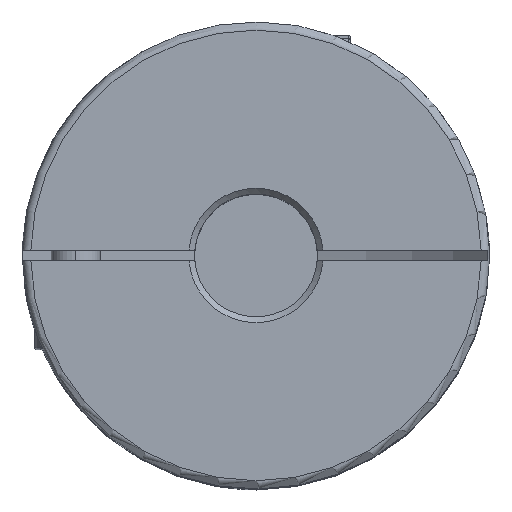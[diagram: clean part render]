
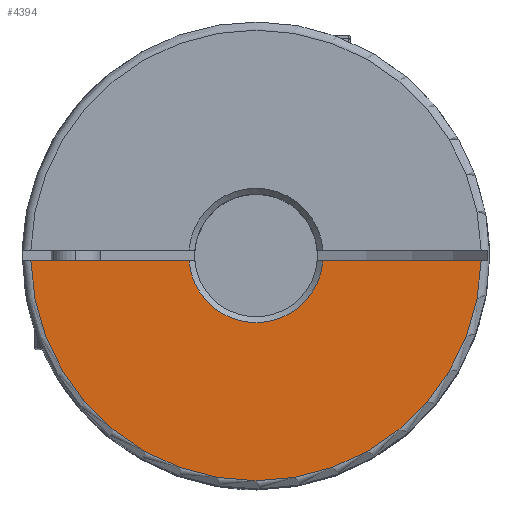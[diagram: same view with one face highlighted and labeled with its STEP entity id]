
A CAD part, top view. The second image highlights one B-rep face of the part: STEP entity #4394.
In plain terms, the highlighted planar face has unit normal (0, 0, 1).
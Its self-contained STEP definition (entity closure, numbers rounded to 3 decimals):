
#1064 = VERTEX_POINT ( 'NONE', #5652 ) ;
#1393 = EDGE_CURVE ( 'NONE', #1064, #7564, #5310, .T. ) ;
#1398 = EDGE_CURVE ( 'NONE', #7649, #7548, #5324, .T. ) ;
#1399 = EDGE_CURVE ( 'NONE', #7649, #7564, #5319, .T. ) ;
#1400 = EDGE_CURVE ( 'NONE', #1064, #7548, #5320, .T. ) ;
#1639 = AXIS2_PLACEMENT_3D ( 'NONE', #3376, #3379, #3377 ) ;
#1640 = AXIS2_PLACEMENT_3D ( 'NONE', #3437, #3434, #3450 ) ;
#2000 = AXIS2_PLACEMENT_3D ( 'NONE', #6309, #6301, #6299 ) ;
#2563 = FACE_OUTER_BOUND ( 'NONE', #3873, .T. ) ;
#3063 = ORIENTED_EDGE ( 'NONE', *, *, #1398, .F. ) ;
#3083 = ORIENTED_EDGE ( 'NONE', *, *, #1393, .F. ) ;
#3163 = ORIENTED_EDGE ( 'NONE', *, *, #1399, .T. ) ;
#3185 = ORIENTED_EDGE ( 'NONE', *, *, #1400, .T. ) ;
#3359 = DIRECTION ( 'NONE',  ( 1., 0., 0. ) ) ;
#3360 = DIRECTION ( 'NONE',  ( 1., 0., 0. ) ) ;
#3376 = CARTESIAN_POINT ( 'NONE',  ( 0., 0., 38.1 ) ) ;
#3377 = DIRECTION ( 'NONE',  ( 0., 1., 0. ) ) ;
#3379 = DIRECTION ( 'NONE',  ( 0., 0., -1. ) ) ;
#3380 = CARTESIAN_POINT ( 'NONE',  ( -28.5, -0.65, 38.1 ) ) ;
#3434 = DIRECTION ( 'NONE',  ( 0., 0., 1. ) ) ;
#3437 = CARTESIAN_POINT ( 'NONE',  ( 0., 0., 38.1 ) ) ;
#3445 = CARTESIAN_POINT ( 'NONE',  ( -28.5, -0.65, 38.1 ) ) ;
#3450 = DIRECTION ( 'NONE',  ( -1., 0., 0. ) ) ;
#3873 = EDGE_LOOP ( 'NONE', ( #3063, #3163, #3083, #3185 ) ) ;
#4394 = ADVANCED_FACE ( 'NONE', ( #2563 ), #6305, .F. ) ;
#5310 = LINE ( 'NONE', #3380, #5315 ) ;
#5315 = VECTOR ( 'NONE', #3359, 1000. ) ;
#5319 = CIRCLE ( 'NONE', #1639, 8.2 ) ;
#5320 = CIRCLE ( 'NONE', #1640, 27.5 ) ;
#5324 = LINE ( 'NONE', #3445, #5325 ) ;
#5325 = VECTOR ( 'NONE', #3360, 1000. ) ;
#5652 = CARTESIAN_POINT ( 'NONE',  ( -27.492, -0.65, 38.1 ) ) ;
#6299 = DIRECTION ( 'NONE',  ( -1., 0., 0. ) ) ;
#6301 = DIRECTION ( 'NONE',  ( 0., 0., -1. ) ) ;
#6305 = PLANE ( 'NONE',  #2000 ) ;
#6309 = CARTESIAN_POINT ( 'NONE',  ( 0., 0., 38.1 ) ) ;
#7338 = CARTESIAN_POINT ( 'NONE',  ( 8.174, -0.65, 38.1 ) ) ;
#7428 = CARTESIAN_POINT ( 'NONE',  ( -8.174, -0.65, 38.1 ) ) ;
#7448 = CARTESIAN_POINT ( 'NONE',  ( 27.492, -0.65, 38.1 ) ) ;
#7548 = VERTEX_POINT ( 'NONE', #7448 ) ;
#7564 = VERTEX_POINT ( 'NONE', #7428 ) ;
#7649 = VERTEX_POINT ( 'NONE', #7338 ) ;
